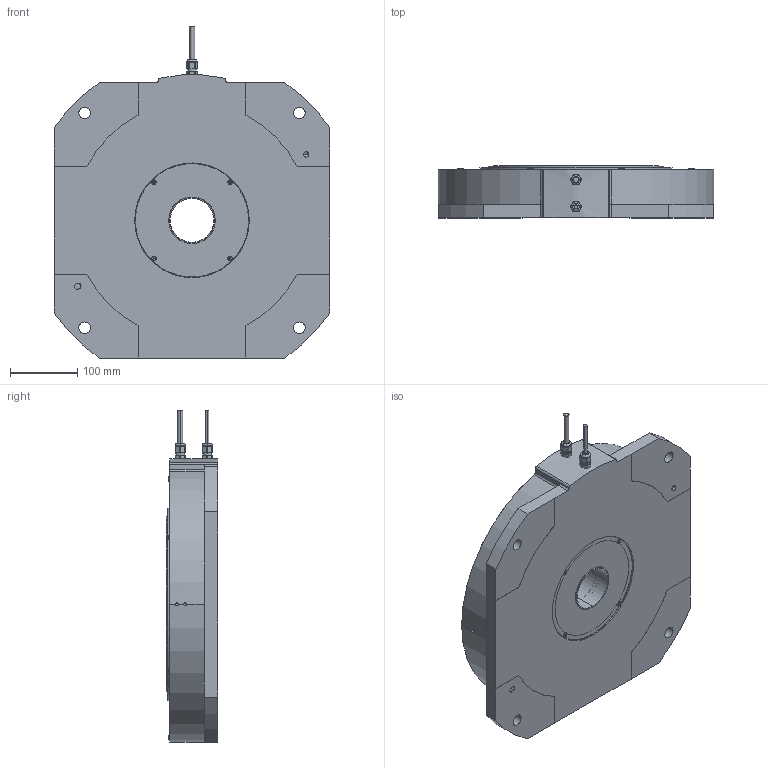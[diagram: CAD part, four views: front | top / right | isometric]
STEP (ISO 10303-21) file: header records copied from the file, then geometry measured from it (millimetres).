
FILE_DESCRIPTION (( 'STEP AP214' ), '1' );
FILE_NAME ('ND400-65-FSP(ABS).step', '2024-03-26T01:01:05', ( '' ), ( '' ), 'SwSTEP 2.0', 'SolidWorks 2023', '' );
FILE_SCHEMA (( 'AUTOMOTIVE_DESIGN' ));
Length unit declared in the file: millimetre
Products named in the file (1): ND400-65-FSP(ABS)
Bounding box: 408 x 76.8 x 492 mm (x, y, z)
Volume: 3585539.8 mm3; surface area: 842790.3 mm2
Topology: 27 solids, 27 shells, 1040 faces, 2606 edges, 1635 vertices
Faces by surface type: cylinder 544, plane 253, cone 159, torus 62, sphere 22
Entity records: 33186 total; most frequent: CARTESIAN_POINT 7896, DIRECTION 5432, ORIENTED_EDGE 5064, EDGE_CURVE 2532, AXIS2_PLACEMENT_3D 2200, VERTEX_POINT 1635, EDGE_LOOP 1209, CIRCLE 1159
